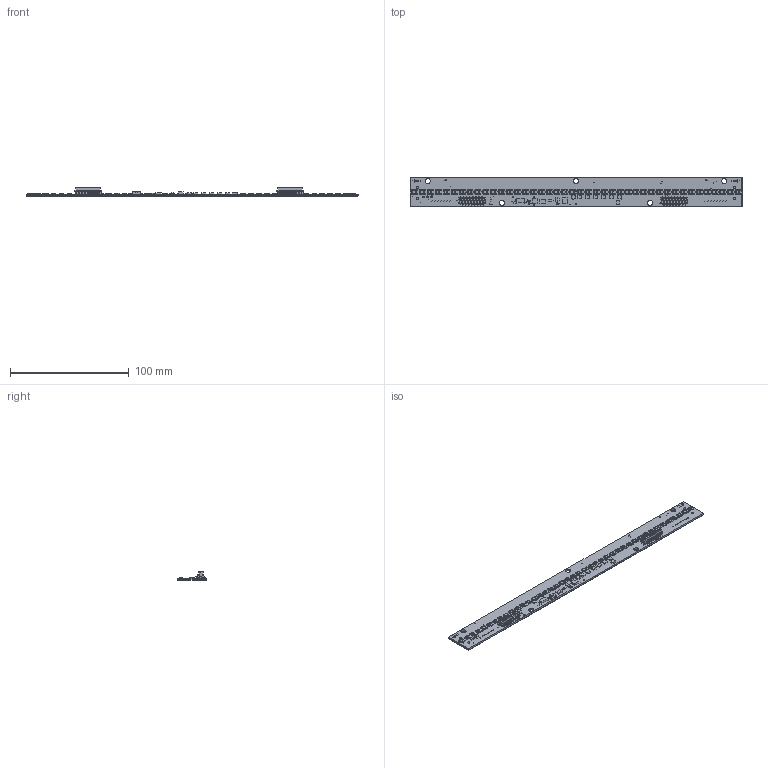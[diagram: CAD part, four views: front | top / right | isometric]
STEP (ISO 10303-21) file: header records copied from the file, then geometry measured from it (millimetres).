
FILE_DESCRIPTION (( 'STEP AP203' ), '1' );
FILE_NAME ('24.700.025.02 B MLTM PCBA 1 FT LUMENETIX 16 PIN TOP CONNECTORS.STEP', '2017-01-09T23:48:52', ( 'Rob' ), ( '' ), 'SwSTEP 2.0', 'SolidWorks 2016', '' );
FILE_SCHEMA (( 'CONFIG_CONTROL_DESIGN' ));
Length unit declared in the file: millimetre
Products named in the file (12): 462.038 16 PIN CONNECTOR 8-188275-6; lumileds 3535L; 67.700.002.01 A LTM2 INSULATOR PAD 1FT LX; TEST PADS; 22.700.025.01 1 MLTM PCB 1 FT LUMENETIX; 24.700.025.02 B MLTM PCBA 1 FT LUMENETIX 16 PIN TOP CONNECTORS; LIGHT SENSOR VISHAY TEMD6200FX01; DIRECTION ARROW; THERMAL SENSOR; ON-BOARD MEMORY; FIDUCIAL; 22_700_017_01_revc_review_090816a emn file
Assembly tree (56 placements, depth 2):
  24.700.025.02 B MLTM PCBA 1 FT LUMENETIX 16 PIN TOP CONNECTORS
    22.700.025.01 1 MLTM PCB 1 FT LUMENETIX
    lumileds 3535L  x42
    TEST PADS
    LIGHT SENSOR VISHAY TEMD6200FX01
    DIRECTION ARROW  x2
    THERMAL SENSOR
    ON-BOARD MEMORY
    FIDUCIAL  x3
    22_700_017_01_revc_review_090816a emn file
    462.038 16 PIN CONNECTOR 8-188275-6  x2
    67.700.002.01 A LTM2 INSULATOR PAD 1FT LX
Bounding box: 280 x 24 x 7.05 mm (x, y, z)
Volume: 24041 mm3; surface area: 47367.3 mm2
Topology: 253 solids, 253 shells, 4114 faces, 10820 edges, 7212 vertices
Faces by surface type: plane 2647, cylinder 1467
Entity records: 79977 total; most frequent: DIRECTION 13645, CARTESIAN_POINT 13179, ORIENTED_EDGE 12950, EDGE_CURVE 6475, AXIS2_PLACEMENT_3D 4782, VERTEX_POINT 4316, VECTOR 4081, LINE 4081
